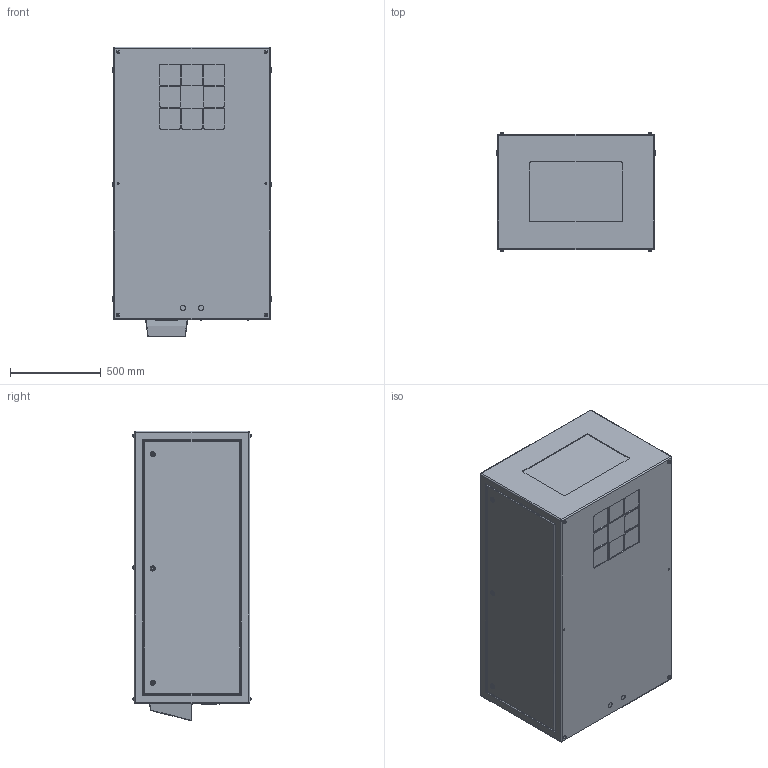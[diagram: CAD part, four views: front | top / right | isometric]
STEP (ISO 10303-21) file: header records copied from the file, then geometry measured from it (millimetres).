
FILE_DESCRIPTION (( 'STEP AP214' ), '1' );
FILE_NAME ('Cyclone 55.310.L.xx R08.STEP', '2020-04-07T14:45:49', ( '' ), ( '' ), 'SwSTEP 2.0', 'SolidWorks 2018', '' );
FILE_SCHEMA (( 'AUTOMOTIVE_DESIGN' ));
Length unit declared in the file: inch
Products named in the file (1): Cyclone 55.310.L.xx R08
Bounding box: 876.3 x 649.73 x 1593.85 mm (x, y, z)
Volume: 819850241.2 mm3; surface area: 6155733.8 mm2
Topology: 1 solids, 1 shells, 479 faces, 1118 edges, 712 vertices
Faces by surface type: plane 257, cylinder 170, torus 44, sphere 8
Entity records: 17242 total; most frequent: DIRECTION 2450, CARTESIAN_POINT 2350, ORIENTED_EDGE 2220, EDGE_CURVE 1110, AXIS2_PLACEMENT_3D 876, VERTEX_POINT 712, LINE 698, VECTOR 698
